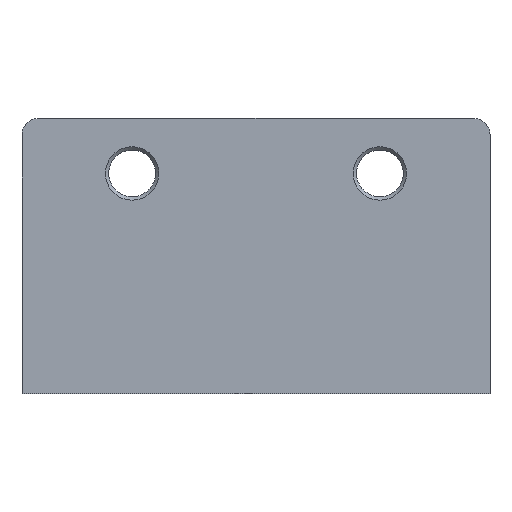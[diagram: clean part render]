
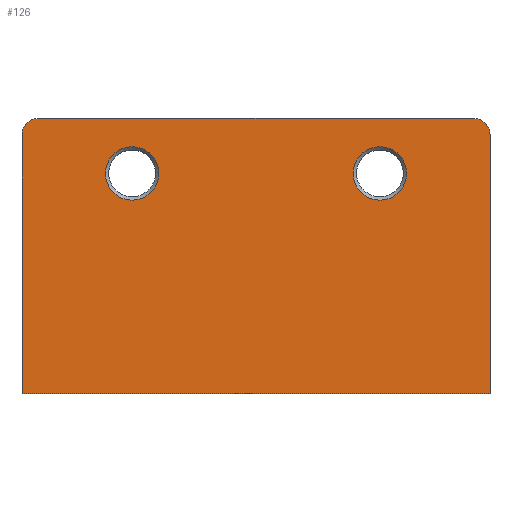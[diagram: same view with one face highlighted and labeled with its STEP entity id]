
A CAD part, left-side view. The second image highlights one B-rep face of the part: STEP entity #126.
In plain terms, the highlighted planar face has unit normal (-1, 0, 0).
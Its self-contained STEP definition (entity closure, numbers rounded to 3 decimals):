
#126=ADVANCED_FACE('',(#220,#221,#222),#151,.T.);
#151=PLANE('',#511);
#163=LINE('',#678,#192);
#167=LINE('',#685,#196);
#176=LINE('',#704,#205);
#182=LINE('',#722,#211);
#192=VECTOR('',#552,1.);
#196=VECTOR('',#558,1.);
#205=VECTOR('',#571,1.);
#211=VECTOR('',#591,1.);
#220=FACE_BOUND('',#260,.T.);
#221=FACE_BOUND('',#261,.T.);
#222=FACE_BOUND('',#262,.T.);
#260=EDGE_LOOP('',(#336));
#261=EDGE_LOOP('',(#337));
#262=EDGE_LOOP('',(#338,#339,#340,#341,#342,#343));
#336=ORIENTED_EDGE('',*,*,#461,.F.);
#337=ORIENTED_EDGE('',*,*,#462,.F.);
#338=ORIENTED_EDGE('',*,*,#459,.F.);
#339=ORIENTED_EDGE('',*,*,#463,.T.);
#340=ORIENTED_EDGE('',*,*,#439,.F.);
#341=ORIENTED_EDGE('',*,*,#449,.T.);
#342=ORIENTED_EDGE('',*,*,#435,.T.);
#343=ORIENTED_EDGE('',*,*,#464,.T.);
#397=VERTEX_POINT('',#677);
#398=VERTEX_POINT('',#679);
#400=VERTEX_POINT('',#686);
#401=VERTEX_POINT('',#687);
#412=VERTEX_POINT('',#721);
#413=VERTEX_POINT('',#723);
#414=VERTEX_POINT('',#727);
#415=VERTEX_POINT('',#729);
#435=EDGE_CURVE('',#398,#397,#163,.T.);
#439=EDGE_CURVE('',#400,#401,#167,.T.);
#449=EDGE_CURVE('',#400,#398,#176,.T.);
#459=EDGE_CURVE('',#412,#413,#182,.T.);
#461=EDGE_CURVE('',#414,#414,#480,.T.);
#462=EDGE_CURVE('',#415,#415,#481,.T.);
#463=EDGE_CURVE('',#412,#401,#482,.T.);
#464=EDGE_CURVE('',#397,#413,#483,.T.);
#480=CIRCLE('',#507,4.85);
#481=CIRCLE('',#508,4.85);
#482=CIRCLE('',#509,3.);
#483=CIRCLE('',#510,3.);
#507=AXIS2_PLACEMENT_3D('',#726,#595,#596);
#508=AXIS2_PLACEMENT_3D('',#728,#597,#598);
#509=AXIS2_PLACEMENT_3D('',#730,#599,#600);
#510=AXIS2_PLACEMENT_3D('',#731,#601,#602);
#511=AXIS2_PLACEMENT_3D('',#732,#603,#604);
#552=DIRECTION('',(0.,0.,1.));
#558=DIRECTION('',(0.,0.,1.));
#571=DIRECTION('',(0.,-1.,0.));
#591=DIRECTION('',(0.,-1.,0.));
#595=DIRECTION('',(-1.,0.,0.));
#596=DIRECTION('',(0.,0.,1.));
#597=DIRECTION('',(-1.,0.,0.));
#598=DIRECTION('',(0.,0.,1.));
#599=DIRECTION('',(-1.,0.,0.));
#600=DIRECTION('',(0.,0.,1.));
#601=DIRECTION('',(-1.,0.,0.));
#602=DIRECTION('',(0.,0.,1.));
#603=DIRECTION('',(-1.,0.,0.));
#604=DIRECTION('',(0.,0.,1.));
#677=CARTESIAN_POINT('',(-13.,0.,47.));
#678=CARTESIAN_POINT('',(-13.,0.,0.));
#679=CARTESIAN_POINT('',(-13.,0.,0.));
#685=CARTESIAN_POINT('',(-13.,85.,0.));
#686=CARTESIAN_POINT('',(-13.,85.,0.));
#687=CARTESIAN_POINT('',(-13.,85.,47.));
#704=CARTESIAN_POINT('',(-13.,85.,0.));
#721=CARTESIAN_POINT('',(-13.,82.,50.));
#722=CARTESIAN_POINT('',(-13.,85.,50.));
#723=CARTESIAN_POINT('',(-13.,3.,50.));
#726=CARTESIAN_POINT('',(-13.,20.,40.));
#727=CARTESIAN_POINT('',(-13.,20.,44.85));
#728=CARTESIAN_POINT('',(-13.,65.,40.));
#729=CARTESIAN_POINT('',(-13.,65.,44.85));
#730=CARTESIAN_POINT('',(-13.,82.,47.));
#731=CARTESIAN_POINT('',(-13.,3.,47.));
#732=CARTESIAN_POINT('',(-13.,85.,0.));
